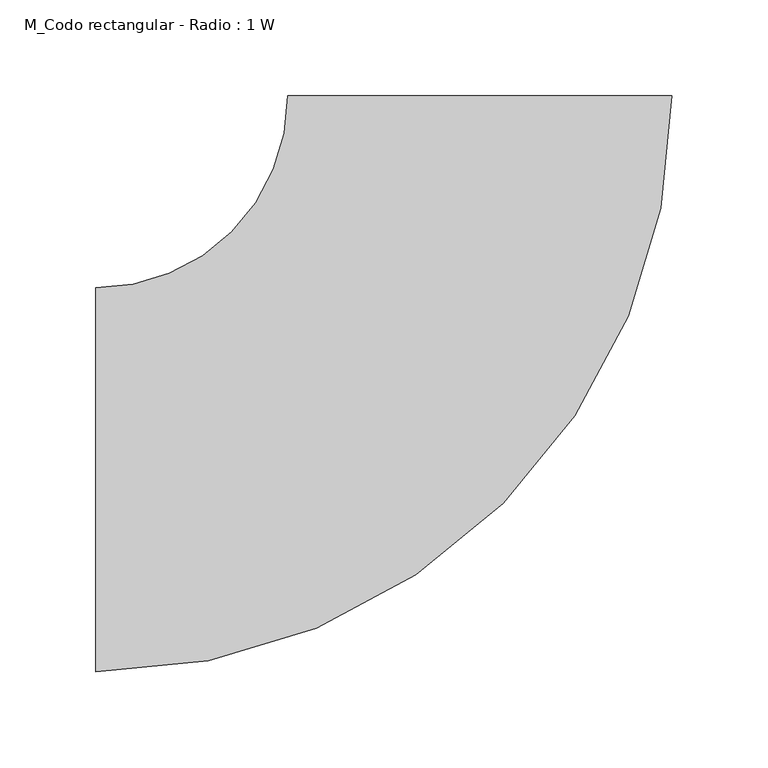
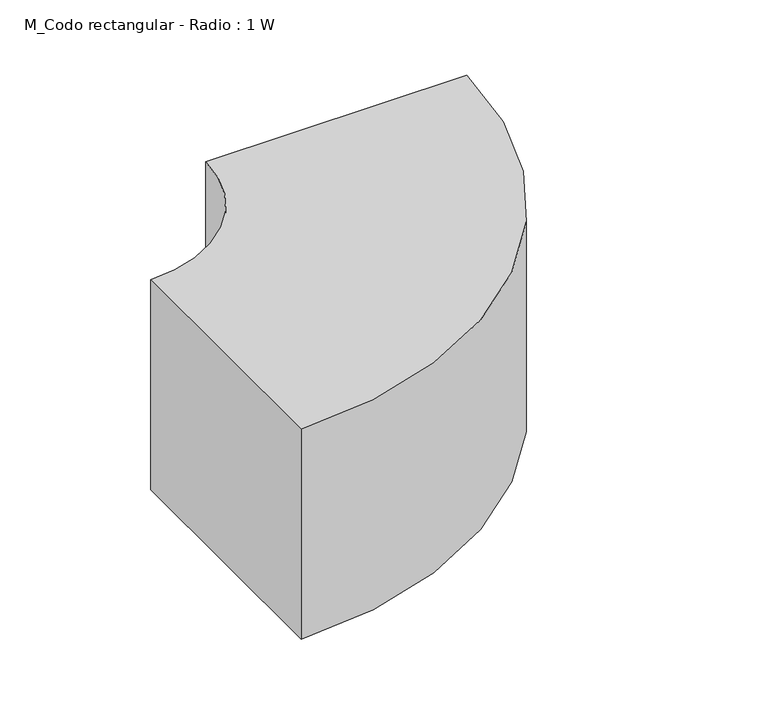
"""IFC4 building model written with IfcOpenShell, lengths in millimetres: duct fitting geometry, M_Codo rectangular - Radio : 1 W."""

from ifc_helpers import new_model, si_unit, point, frame, frame_2d, origin, place, context, project, spatial, polyline, circle_curve, trimmed, segment, composite_curve, outline, extrude, source, transform, mapped, element, save


def m_codo_rectangular_radio_1_w_cf60cd78(model_context):
    return source(origin(), model_context, "Body", "SweptSolid", [
        extrude(outline(composite_curve([segment(trimmed(circle_curve(frame_2d((-200.0, 200.0)), 300.0), [point((100.0, 200.0))], [point((-200.0, -100.0))], False, "CARTESIAN"), True, "CONTINUOUS"), segment(polyline([(-200.0, -100.0), (-200.0, 100.0)]), True, "CONTINUOUS"), segment(trimmed(circle_curve(frame_2d((-200.0, 200.0)), 100.0), [point((-200.0, 100.0))], [point((-100.0, 200.0))], True, "CARTESIAN"), True, "CONTINUOUS"), segment(polyline([(-100.0, 200.0), (100.0, 200.0)]), True, "CONTINUOUS")], self_intersect=False)), frame((0.0, 0.0, -85.0), z_axis=(0.0, 0.0, 1.0), x_axis=(1.0, 0.0, 0.0)), (0.0, 0.0, 1.0), 170.0),
    ])


if __name__ == "__main__":
    model = new_model("IFC4")
    model_context = context("Model", 3, world=origin())
    ifc_project = project(units=[si_unit("LENGTHUNIT", "METRE", prefix="MILLI")], contexts=[model_context])
    site = spatial("IfcSite", under=ifc_project)
    building = spatial("IfcBuilding", under=site)
    placement = place(None, origin())
    m_codo_rectangular_radio_1_w_shape = m_codo_rectangular_radio_1_w_cf60cd78(model_context)
    element("IfcDuctFitting", 1, ObjectType="M_Codo rectangular - Radio : 1 W", at=placement, inside=building, context=model_context, shape_type="MappedRepresentation", body=[
        mapped(m_codo_rectangular_radio_1_w_shape, transform((0.0, 0.0, 0.0), x_axis=(1.0, 0.0, 0.0), y_axis=(0.0, 1.0, 0.0), z_axis=(0.0, 0.0, 1.0))),
    ])
    save(model, "model.ifc")
